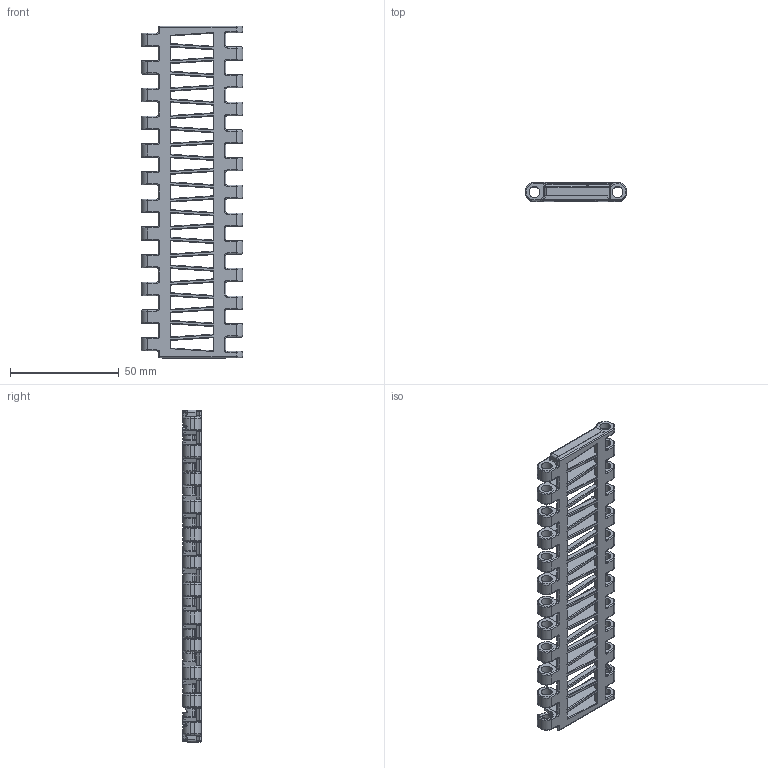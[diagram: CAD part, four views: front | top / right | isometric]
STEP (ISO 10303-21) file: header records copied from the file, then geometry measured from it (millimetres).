
FILE_DESCRIPTION((''),'2;1');
FILE_NAME('P430','2016-06-13T',('jas'),(''),'CREO PARAMETRIC BY PTC INC, 2016050','CREO PARAMETRIC BY PTC INC, 2016050','');
FILE_SCHEMA(('AUTOMOTIVE_DESIGN { 1 0 10303 214 1 1 1 1 }'));
Products named in the file (1): P430
Bounding box: 46.58 x 8.51 x 152.3 mm (x, y, z)
Volume: 16325.5 mm3; surface area: 20521.9 mm2
Topology: 1 solids, 1 shells, 3107 faces, 8353 edges, 5313 vertices
Faces by surface type: plane 1958, cylinder 637, bspline 258, torus 220, sphere 30, cone 4
Entity records: 118458 total; most frequent: CARTESIAN_POINT 42527, ORIENTED_EDGE 16706, DIRECTION 14155, EDGE_CURVE 8353, VECTOR 6209, LINE 6209, VERTEX_POINT 5313, AXIS2_PLACEMENT_3D 3973
